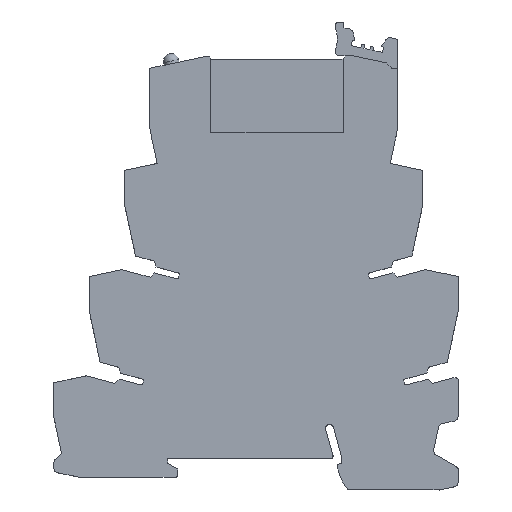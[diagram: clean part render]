
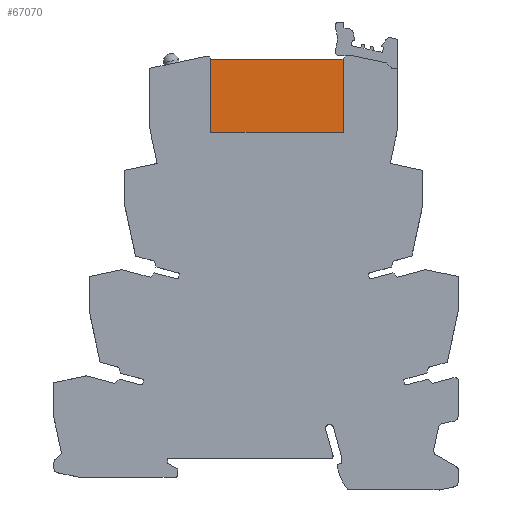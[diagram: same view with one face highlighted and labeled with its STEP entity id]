
A CAD part, top view. The second image highlights one B-rep face of the part: STEP entity #67070.
In plain terms, the highlighted planar face has unit normal (0, 0, 1) as drawn and (0, 0, -1) by its records, which use the part's own axes.
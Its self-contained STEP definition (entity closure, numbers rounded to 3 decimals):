
#65900=CARTESIAN_POINT('',(-18.801,75.143,
-5.5));
#65910=VERTEX_POINT('',#65900);
#66060=CARTESIAN_POINT('',(9.199,75.143,
-5.5));
#66070=VERTEX_POINT('',#66060);
#66100=CARTESIAN_POINT('',(-9.951,75.143,
-5.5));
#66110=DIRECTION('',(1.,0.,0.));
#66120=VECTOR('',#66110,1.);
#66130=LINE('',#66100,#66120);
#66140=EDGE_CURVE('',#65910,#66070,#66130,.T.);
#66770=CARTESIAN_POINT('',(-18.801,75.143,
-5.5));
#66780=DIRECTION('',(0.,-0.,-1.));
#66790=DIRECTION('',(1.,0.,0.));
#66800=AXIS2_PLACEMENT_3D('',#66770,#66780,#66790);
#66810=PLANE('',#66800);
#66820=CARTESIAN_POINT('',(9.199,75.143,
-5.5));
#66830=DIRECTION('',(0.,1.,0.));
#66840=VECTOR('',#66830,1.);
#66850=LINE('',#66820,#66840);
#66860=CARTESIAN_POINT('',(9.199,89.643,
-5.5));
#66870=VERTEX_POINT('',#66860);
#66880=EDGE_CURVE('',#66070,#66870,#66850,.T.);
#66890=ORIENTED_EDGE('',*,*,#66880,.F.);
#66900=CARTESIAN_POINT('',(-18.801,89.643,
-5.5));
#66910=DIRECTION('',(1.,0.,0.));
#66920=VECTOR('',#66910,1.);
#66930=LINE('',#66900,#66920);
#66940=CARTESIAN_POINT('',(-18.801,89.643,
-5.5));
#66950=VERTEX_POINT('',#66940);
#66960=EDGE_CURVE('',#66950,#66870,#66930,.T.);
#66970=ORIENTED_EDGE('',*,*,#66960,.T.);
#66980=CARTESIAN_POINT('',(-18.801,75.143,
-5.5));
#66990=DIRECTION('',(0.,1.,0.));
#67000=VECTOR('',#66990,1.);
#67010=LINE('',#66980,#67000);
#67020=EDGE_CURVE('',#65910,#66950,#67010,.T.);
#67030=ORIENTED_EDGE('',*,*,#67020,.T.);
#67040=ORIENTED_EDGE('',*,*,#66140,.F.);
#67050=EDGE_LOOP('',(#67040,#67030,#66970,#66890));
#67060=FACE_OUTER_BOUND('',#67050,.T.);
#67070=ADVANCED_FACE('',(#67060),#66810,.T.);
